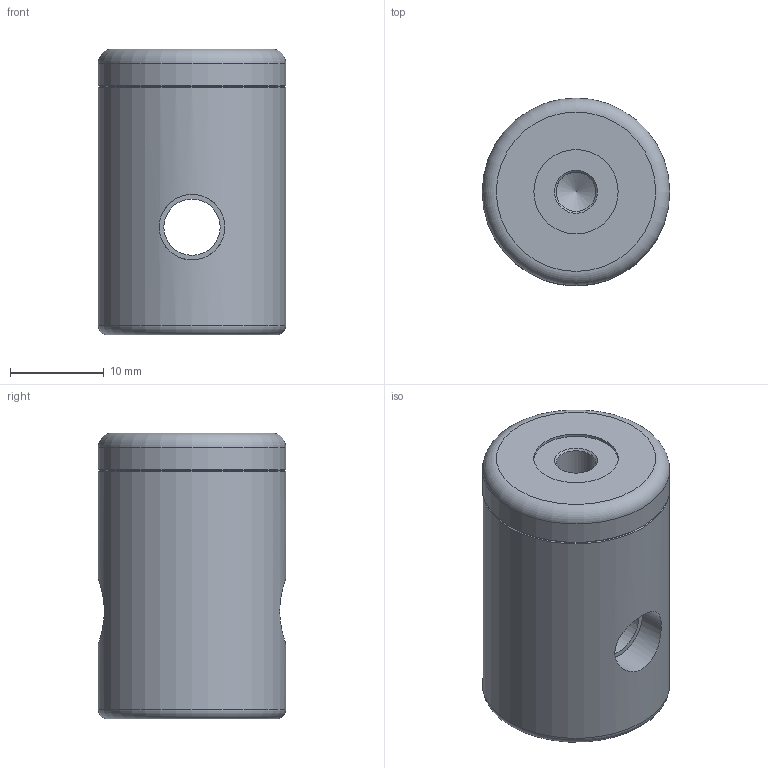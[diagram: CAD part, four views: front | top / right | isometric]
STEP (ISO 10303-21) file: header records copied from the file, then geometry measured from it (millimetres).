
FILE_DESCRIPTION(('STEP AP242'),'1');
FILE_NAME('V.5006 Feststellpatrone.stp','2026-04-23T09:33:33',(' '),(' '),'Spatial InterOp 3D',' ',' ');
FILE_SCHEMA(('AP242_MANAGED_MODEL_BASED_3D_ENGINEERING_MIM_LF {1 0 10303 442 1 1 4}'));
Length unit declared in the file: millimetre
Products named in the file (1): V.5006 Feststellpatrone
Bounding box: 20 x 20 x 30.5 mm (x, y, z)
Volume: 8768 mm3; surface area: 2932.4 mm2
Topology: 1 solids, 1 shells, 19 faces, 36 edges, 22 vertices
Faces by surface type: cylinder 8, plane 5, cone 4, torus 2
Full cylindrical faces by diameter (mm): 4.2 x2, 6 x1, 7 x2, 9 x1, 20 x2
Entity records: 755 total; most frequent: CARTESIAN_POINT 185, DIRECTION 74, EDGE_LOOP 38, ORIENTED_EDGE 38, AXIS2_PLACEMENT_3D 37, FACE_OUTER_BOUND 29, STYLED_ITEM 20, PRESENTATION_STYLE_ASSIGNMENT 20
